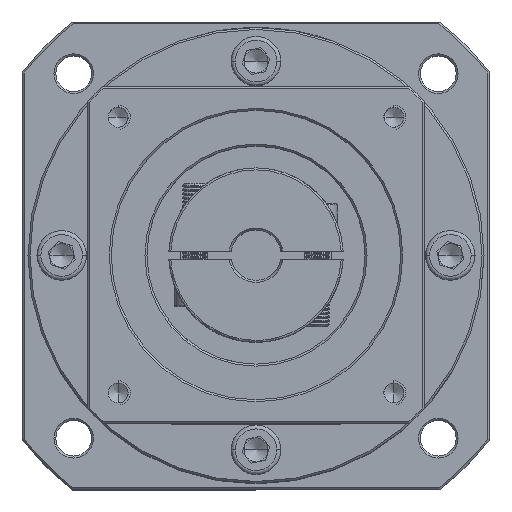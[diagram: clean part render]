
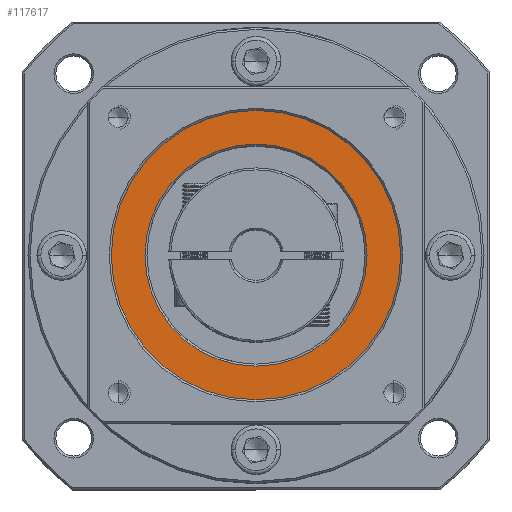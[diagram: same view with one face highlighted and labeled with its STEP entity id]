
A CAD part, top view. The second image highlights one B-rep face of the part: STEP entity #117617.
In plain terms, the highlighted planar face has unit normal (0, 0, 1).
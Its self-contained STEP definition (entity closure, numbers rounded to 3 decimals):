
#2573 = DIRECTION ( 'NONE',  ( 0., 0., 1. ) ) ;
#6211 = ORIENTED_EDGE ( 'NONE', *, *, #95645, .T. ) ;
#8340 = CIRCLE ( 'NONE', #88736, 36.5 ) ;
#10915 = DIRECTION ( 'NONE',  ( 0., -1., 0. ) ) ;
#13622 = CARTESIAN_POINT ( 'NONE',  ( -19.155, -9.944, 265.002 ) ) ;
#21484 = DIRECTION ( 'NONE',  ( 0., 0., -1. ) ) ;
#22065 = FACE_BOUND ( 'NONE', #80693, .T. ) ;
#31551 = ORIENTED_EDGE ( 'NONE', *, *, #68352, .T. ) ;
#31635 = CARTESIAN_POINT ( 'NONE',  ( -19.155, -9.944, 265.002 ) ) ;
#32225 = AXIS2_PLACEMENT_3D ( 'NONE', #31635, #21484, #10915 ) ;
#32727 = CIRCLE ( 'NONE', #32225, 28. ) ;
#34456 = AXIS2_PLACEMENT_3D ( 'NONE', #109661, #90198, #40343 ) ;
#40288 = DIRECTION ( 'NONE',  ( 0., 0., 1. ) ) ;
#40343 = DIRECTION ( 'NONE',  ( 0., -1., 0. ) ) ;
#42585 = CARTESIAN_POINT ( 'NONE',  ( -19.155, 26.556, 265.002 ) ) ;
#48534 = CIRCLE ( 'NONE', #34456, 36.5 ) ;
#49238 = ORIENTED_EDGE ( 'NONE', *, *, #49954, .T. ) ;
#49954 = EDGE_CURVE ( 'NONE', #113999, #67907, #48534, .T. ) ;
#52825 = DIRECTION ( 'NONE',  ( 0., 0., -1. ) ) ;
#63712 = VERTEX_POINT ( 'NONE', #122362 ) ;
#63972 = PLANE ( 'NONE',  #117481 ) ;
#64335 = CARTESIAN_POINT ( 'NONE',  ( -19.155, -9.944, 265.002 ) ) ;
#67907 = VERTEX_POINT ( 'NONE', #94005 ) ;
#68352 = EDGE_CURVE ( 'NONE', #63712, #124732, #120092, .T. ) ;
#80693 = EDGE_LOOP ( 'NONE', ( #6211, #31551 ) ) ;
#82187 = CARTESIAN_POINT ( 'NONE',  ( -19.155, -9.944, 265.002 ) ) ;
#82259 = ORIENTED_EDGE ( 'NONE', *, *, #106728, .T. ) ;
#82395 = DIRECTION ( 'NONE',  ( 0., -1., 0. ) ) ;
#88736 = AXIS2_PLACEMENT_3D ( 'NONE', #82187, #40288, #111786 ) ;
#90198 = DIRECTION ( 'NONE',  ( 0., 0., 1. ) ) ;
#91444 = FACE_OUTER_BOUND ( 'NONE', #115945, .T. ) ;
#94005 = CARTESIAN_POINT ( 'NONE',  ( -19.155, -46.444, 265.002 ) ) ;
#95645 = EDGE_CURVE ( 'NONE', #124732, #63712, #32727, .T. ) ;
#100002 = AXIS2_PLACEMENT_3D ( 'NONE', #64335, #52825, #82395 ) ;
#106728 = EDGE_CURVE ( 'NONE', #67907, #113999, #8340, .T. ) ;
#109661 = CARTESIAN_POINT ( 'NONE',  ( -19.155, -9.944, 265.002 ) ) ;
#110598 = CARTESIAN_POINT ( 'NONE',  ( -19.155, -37.944, 265.002 ) ) ;
#111786 = DIRECTION ( 'NONE',  ( 0., -1., 0. ) ) ;
#113999 = VERTEX_POINT ( 'NONE', #42585 ) ;
#114285 = DIRECTION ( 'NONE',  ( 0., -1., 0. ) ) ;
#115945 = EDGE_LOOP ( 'NONE', ( #82259, #49238 ) ) ;
#117481 = AXIS2_PLACEMENT_3D ( 'NONE', #13622, #2573, #114285 ) ;
#117617 = ADVANCED_FACE ( 'NONE', ( #91444, #22065 ), #63972, .T. ) ;
#120092 = CIRCLE ( 'NONE', #100002, 28. ) ;
#122362 = CARTESIAN_POINT ( 'NONE',  ( -19.155, 18.056, 265.002 ) ) ;
#124732 = VERTEX_POINT ( 'NONE', #110598 ) ;
